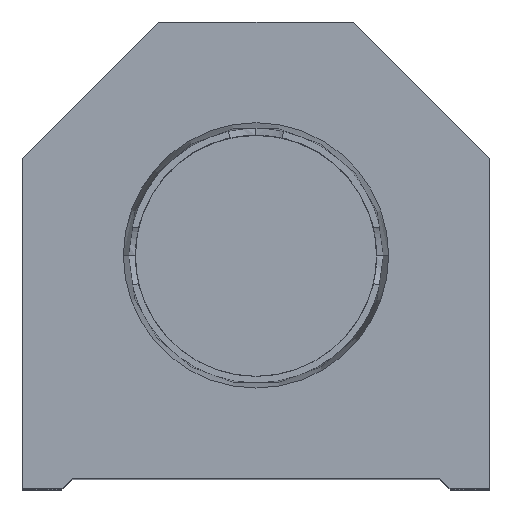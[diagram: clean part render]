
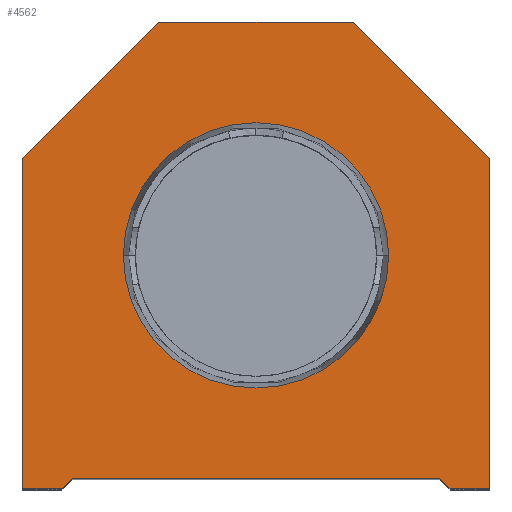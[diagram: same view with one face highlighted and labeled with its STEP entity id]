
A CAD part, top view. The second image highlights one B-rep face of the part: STEP entity #4562.
In plain terms, the highlighted planar face has unit normal (0, 0, 1).
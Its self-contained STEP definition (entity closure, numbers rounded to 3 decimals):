
#67 = ORIENTED_EDGE ( 'NONE', *, *, #16553, .T. ) ;
#336 = EDGE_CURVE ( 'NONE', #11812, #1853, #12176, .T. ) ;
#807 = DIRECTION ( 'NONE',  ( 0., 1., 0. ) ) ;
#933 = PLANE ( 'NONE',  #11179 ) ;
#1195 = DIRECTION ( 'NONE',  ( 1., 0., 0. ) ) ;
#1210 = EDGE_CURVE ( 'NONE', #7166, #14063, #14626, .T. ) ;
#1277 = VECTOR ( 'NONE', #14479, 1000. ) ;
#1402 = ORIENTED_EDGE ( 'NONE', *, *, #11829, .T. ) ;
#1802 = EDGE_CURVE ( 'NONE', #14063, #7843, #8104, .T. ) ;
#1853 = VERTEX_POINT ( 'NONE', #12799 ) ;
#2067 = LINE ( 'NONE', #7900, #16507 ) ;
#2111 = DIRECTION ( 'NONE',  ( 1., 0., 0. ) ) ;
#2202 = DIRECTION ( 'NONE',  ( 0., 0., 1. ) ) ;
#2212 = DIRECTION ( 'NONE',  ( 0., 0., 1. ) ) ;
#2262 = CARTESIAN_POINT ( 'NONE',  ( 17.5, 0., 0. ) ) ;
#2568 = CIRCLE ( 'NONE', #11588, 12.647 ) ;
#2698 = DIRECTION ( 'NONE',  ( 1., 0., 0. ) ) ;
#2802 = EDGE_LOOP ( 'NONE', ( #9191, #17526, #15756, #17107, #10030, #67, #15098, #8624, #1402, #18267 ) ) ;
#3392 = DIRECTION ( 'NONE',  ( -0.707, -0.707, 0. ) ) ;
#3496 = LINE ( 'NONE', #15160, #15576 ) ;
#4111 = EDGE_CURVE ( 'NONE', #11750, #9545, #8147, .T. ) ;
#4205 = VECTOR ( 'NONE', #6857, 1000. ) ;
#4542 = VERTEX_POINT ( 'NONE', #16582 ) ;
#4562 = ADVANCED_FACE ( 'NONE', ( #12332, #7990 ), #933, .T. ) ;
#4736 = VECTOR ( 'NONE', #16273, 1000. ) ;
#4819 = CARTESIAN_POINT ( 'NONE',  ( -9.25, 9.25, 0. ) ) ;
#4939 = VERTEX_POINT ( 'NONE', #15531 ) ;
#5203 = CARTESIAN_POINT ( 'NONE',  ( 22.25, 0., 0. ) ) ;
#5605 = CARTESIAN_POINT ( 'NONE',  ( 22.25, 31.5, 0. ) ) ;
#6015 = CARTESIAN_POINT ( 'NONE',  ( -22.25, 0., 0. ) ) ;
#6121 = ORIENTED_EDGE ( 'NONE', *, *, #7226, .F. ) ;
#6416 = DIRECTION ( 'NONE',  ( -0.707, 0.707, 0. ) ) ;
#6857 = DIRECTION ( 'NONE',  ( 0.707, -0.707, 0. ) ) ;
#7166 = VERTEX_POINT ( 'NONE', #9481 ) ;
#7226 = EDGE_CURVE ( 'NONE', #12167, #17558, #2568, .T. ) ;
#7843 = VERTEX_POINT ( 'NONE', #12678 ) ;
#7900 = CARTESIAN_POINT ( 'NONE',  ( -22.25, 31.5, 0. ) ) ;
#7990 = FACE_OUTER_BOUND ( 'NONE', #2802, .T. ) ;
#8104 = LINE ( 'NONE', #2262, #15484 ) ;
#8147 = LINE ( 'NONE', #16994, #11169 ) ;
#8331 = CARTESIAN_POINT ( 'NONE',  ( 18.5, 0., 0. ) ) ;
#8624 = ORIENTED_EDGE ( 'NONE', *, *, #4111, .T. ) ;
#8773 = EDGE_CURVE ( 'NONE', #4542, #11812, #10432, .T. ) ;
#9149 = CARTESIAN_POINT ( 'NONE',  ( 0., 0., 0. ) ) ;
#9191 = ORIENTED_EDGE ( 'NONE', *, *, #8773, .T. ) ;
#9452 = VECTOR ( 'NONE', #13941, 1000. ) ;
#9481 = CARTESIAN_POINT ( 'NONE',  ( 17.5, 1., 0. ) ) ;
#9545 = VERTEX_POINT ( 'NONE', #13788 ) ;
#10030 = ORIENTED_EDGE ( 'NONE', *, *, #1802, .T. ) ;
#10432 = LINE ( 'NONE', #12454, #4736 ) ;
#10461 = CARTESIAN_POINT ( 'NONE',  ( -18.5, 0., 0. ) ) ;
#10582 = CIRCLE ( 'NONE', #14774, 12.647 ) ;
#10679 = CARTESIAN_POINT ( 'NONE',  ( 0., 22.25, 0. ) ) ;
#11169 = VECTOR ( 'NONE', #17084, 1000. ) ;
#11179 = AXIS2_PLACEMENT_3D ( 'NONE', #9149, #2212, #17846 ) ;
#11588 = AXIS2_PLACEMENT_3D ( 'NONE', #10679, #2202, #2111 ) ;
#11618 = ORIENTED_EDGE ( 'NONE', *, *, #14878, .F. ) ;
#11688 = EDGE_CURVE ( 'NONE', #13905, #11750, #3496, .T. ) ;
#11731 = CARTESIAN_POINT ( 'NONE',  ( 9.25, 9.25, 0. ) ) ;
#11750 = VERTEX_POINT ( 'NONE', #18457 ) ;
#11812 = VERTEX_POINT ( 'NONE', #10461 ) ;
#11829 = EDGE_CURVE ( 'NONE', #9545, #4939, #2067, .T. ) ;
#12167 = VERTEX_POINT ( 'NONE', #17780 ) ;
#12176 = LINE ( 'NONE', #4819, #9452 ) ;
#12332 = FACE_BOUND ( 'NONE', #18127, .T. ) ;
#12353 = VECTOR ( 'NONE', #2698, 1000. ) ;
#12454 = CARTESIAN_POINT ( 'NONE',  ( -17.5, 0., 0. ) ) ;
#12678 = CARTESIAN_POINT ( 'NONE',  ( 22.25, 0., 0. ) ) ;
#12799 = CARTESIAN_POINT ( 'NONE',  ( -17.5, 1., 0. ) ) ;
#13167 = VECTOR ( 'NONE', #807, 1000. ) ;
#13788 = CARTESIAN_POINT ( 'NONE',  ( -9.25, 44.5, 0. ) ) ;
#13905 = VERTEX_POINT ( 'NONE', #5605 ) ;
#13941 = DIRECTION ( 'NONE',  ( 0.707, 0.707, 0. ) ) ;
#14063 = VERTEX_POINT ( 'NONE', #8331 ) ;
#14100 = EDGE_CURVE ( 'NONE', #1853, #7166, #16830, .T. ) ;
#14274 = LINE ( 'NONE', #6015, #1277 ) ;
#14479 = DIRECTION ( 'NONE',  ( 0., -1., 0. ) ) ;
#14626 = LINE ( 'NONE', #11731, #4205 ) ;
#14774 = AXIS2_PLACEMENT_3D ( 'NONE', #15126, #18329, #1195 ) ;
#14878 = EDGE_CURVE ( 'NONE', #17558, #12167, #10582, .T. ) ;
#15098 = ORIENTED_EDGE ( 'NONE', *, *, #11688, .T. ) ;
#15126 = CARTESIAN_POINT ( 'NONE',  ( 0., 22.25, 0. ) ) ;
#15160 = CARTESIAN_POINT ( 'NONE',  ( 22.25, 31.5, 0. ) ) ;
#15304 = LINE ( 'NONE', #5203, #13167 ) ;
#15394 = CARTESIAN_POINT ( 'NONE',  ( -17.5, 1., 0. ) ) ;
#15484 = VECTOR ( 'NONE', #18081, 1000. ) ;
#15531 = CARTESIAN_POINT ( 'NONE',  ( -22.25, 31.5, 0. ) ) ;
#15576 = VECTOR ( 'NONE', #6416, 1000. ) ;
#15606 = EDGE_CURVE ( 'NONE', #4939, #4542, #14274, .T. ) ;
#15756 = ORIENTED_EDGE ( 'NONE', *, *, #14100, .T. ) ;
#15770 = CARTESIAN_POINT ( 'NONE',  ( -12.647, 22.25, 0. ) ) ;
#16273 = DIRECTION ( 'NONE',  ( 1., 0., 0. ) ) ;
#16507 = VECTOR ( 'NONE', #3392, 1000. ) ;
#16553 = EDGE_CURVE ( 'NONE', #7843, #13905, #15304, .T. ) ;
#16582 = CARTESIAN_POINT ( 'NONE',  ( -22.25, 0., 0. ) ) ;
#16830 = LINE ( 'NONE', #15394, #12353 ) ;
#16994 = CARTESIAN_POINT ( 'NONE',  ( 9.25, 44.5, 0. ) ) ;
#17084 = DIRECTION ( 'NONE',  ( -1., 0., 0. ) ) ;
#17107 = ORIENTED_EDGE ( 'NONE', *, *, #1210, .T. ) ;
#17526 = ORIENTED_EDGE ( 'NONE', *, *, #336, .T. ) ;
#17558 = VERTEX_POINT ( 'NONE', #15770 ) ;
#17780 = CARTESIAN_POINT ( 'NONE',  ( 12.647, 22.25, 0. ) ) ;
#17846 = DIRECTION ( 'NONE',  ( 1., 0., 0. ) ) ;
#18081 = DIRECTION ( 'NONE',  ( 1., 0., 0. ) ) ;
#18127 = EDGE_LOOP ( 'NONE', ( #6121, #11618 ) ) ;
#18267 = ORIENTED_EDGE ( 'NONE', *, *, #15606, .T. ) ;
#18329 = DIRECTION ( 'NONE',  ( 0., 0., 1. ) ) ;
#18457 = CARTESIAN_POINT ( 'NONE',  ( 9.25, 44.5, 0. ) ) ;
